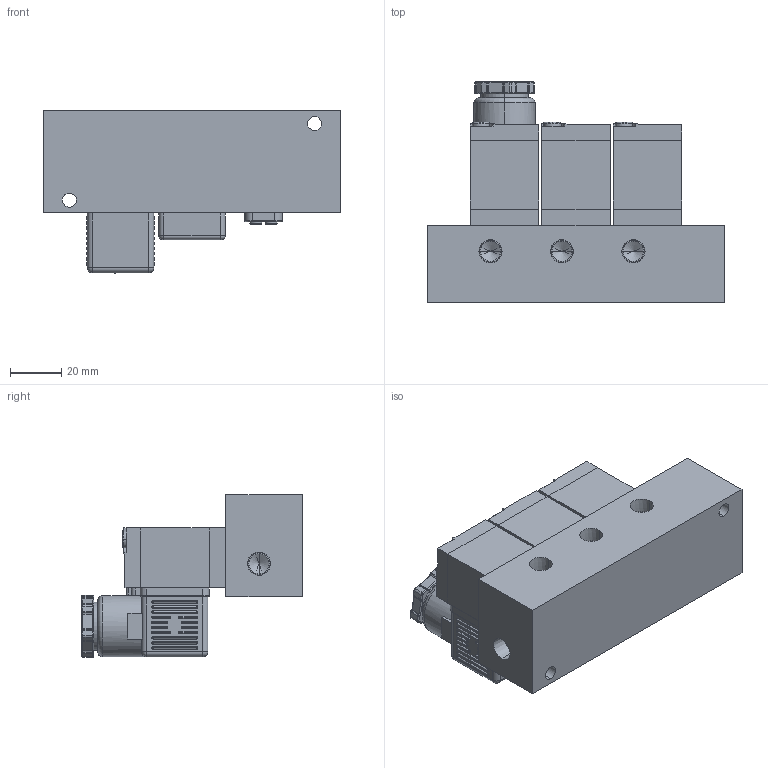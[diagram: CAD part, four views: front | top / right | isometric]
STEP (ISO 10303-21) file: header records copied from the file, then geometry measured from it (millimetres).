
FILE_DESCRIPTION (( 'STEP AP203' ), '1' );
FILE_NAME ('MF#-TC1-01.STEP', '2016-08-01T03:10:25', ( '' ), ( '' ), 'SwSTEP 2.0', 'SolidWorks 2014', '' );
FILE_SCHEMA (( 'CONFIG_CONTROL_DESIGN' ));
Length unit declared in the file: millimetre
Products named in the file (17): PCS2406-9; PC6-M3; MF#-TC1-01; TI-L; PCS2406-7; G2; PCS2406-8; SS231-C; TI-C; PCS2406-7-L; L2; TI-G; PCS2406-3; SS231-1; PC6-M4
Assembly tree (29 placements, depth 4):
  MF#-TC1-01
    TI-C
      SS231-1
      SS231-C
        PCS2406-7
        PCS2406-8
        PCS2406-9
        PC6-M3  x2
        PC6-M4
        SS231-C
    TI-G
      SS231-1
      G2
        PCS2406-7
        PCS2406-3
        PC6-M4
        PCS2406-8
        PCS2406-9
        PC6-M3  x2
    TI-L
      SS231-1
      L2
        PCS2406-8
        PCS2406-9
        PC6-M3  x2
        PCS2406-7-L
    (unnamed)
Bounding box: 116 x 86.5 x 63.64 mm (x, y, z)
Volume: 247927.3 mm3; surface area: 58081.5 mm2
Topology: 23 solids, 23 shells, 955 faces, 2321 edges, 1325 vertices
Faces by surface type: plane 328, cylinder 258, sphere 168, torus 106, cone 95
Entity records: 20626 total; most frequent: DIRECTION 3695, CARTESIAN_POINT 3145, ORIENTED_EDGE 2926, AXIS2_PLACEMENT_3D 1557, EDGE_CURVE 1463, VERTEX_POINT 875, CIRCLE 858, EDGE_LOOP 720
